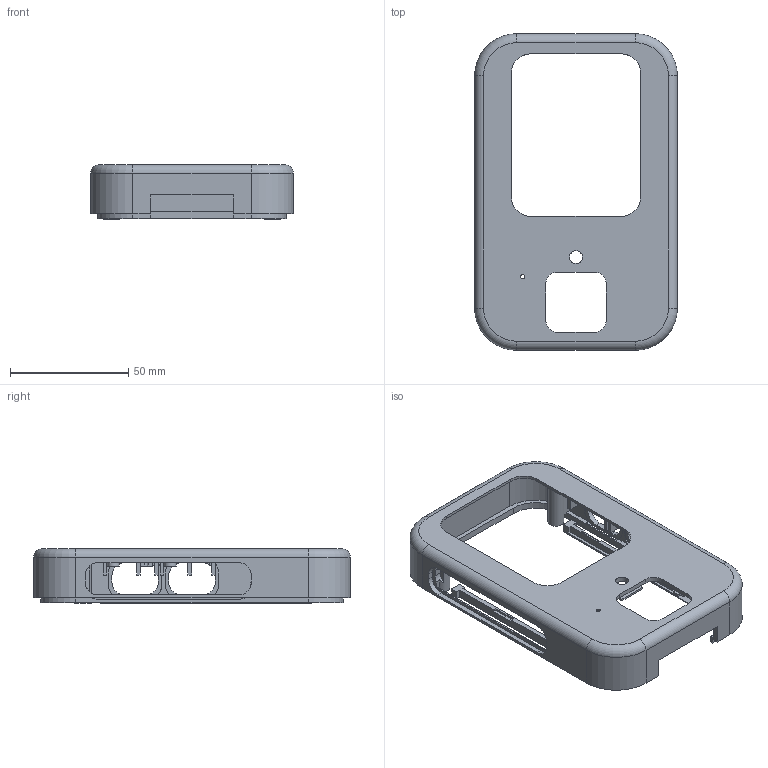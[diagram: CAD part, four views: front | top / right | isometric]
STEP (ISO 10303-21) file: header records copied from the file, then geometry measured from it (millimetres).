
FILE_DESCRIPTION(('Open CASCADE Model'),'2;1');
FILE_NAME('Open CASCADE Shape Model','2026-09-04T20:35:46',('Author'),( 'Open CASCADE'),'Open CASCADE STEP processor 7.7','Open CASCADE 7.7' ,'Unknown');
FILE_SCHEMA(('AUTOMOTIVE_DESIGN { 1 0 10303 214 1 1 1 1 }'));
Length unit declared in the file: millimetre
Products named in the file (1): Open CASCADE STEP translator 7.7 2
Bounding box: 85.6 x 133.6 x 23.2 mm (x, y, z)
Volume: 34563.9 mm3; surface area: 34920.8 mm2
Topology: 1 solids, 1 shells, 404 faces, 1168 edges, 774 vertices
Faces by surface type: plane 286, cylinder 110, torus 8
Full cylindrical faces by diameter (mm): 1.6 x5, 1.8 x1, 2.1 x3, 4.6 x2, 5 x2, 5.4 x1, 6.3 x1, 6.8 x4
Entity records: 28264 total; most frequent: CARTESIAN_POINT 6419, DIRECTION 3664, ORIENTED_EDGE 2336, PCURVE 2336, DEFINITIONAL_REPRESENTATION 2336, LINE 2101, VECTOR 2101, EDGE_CURVE 1168
